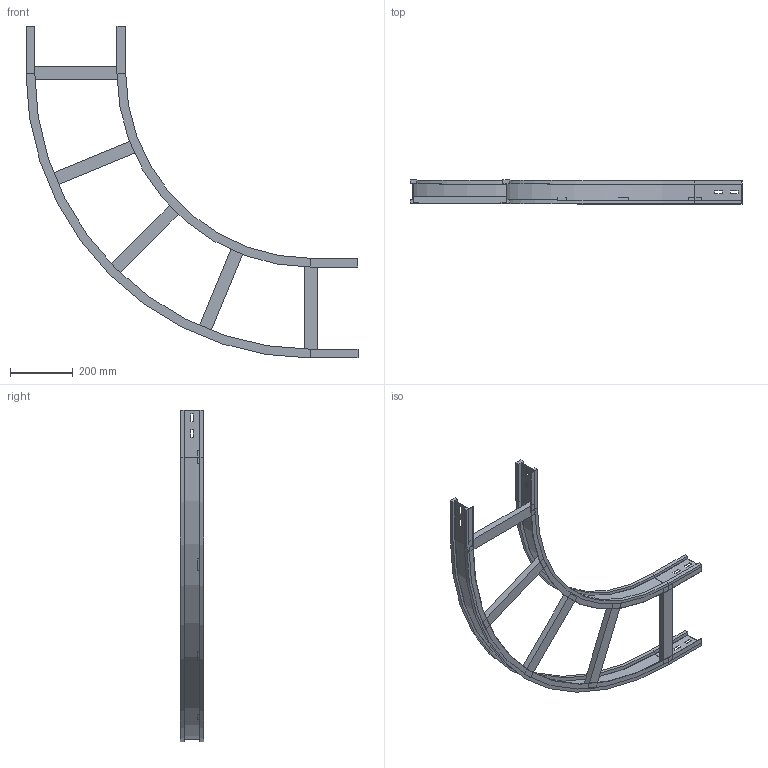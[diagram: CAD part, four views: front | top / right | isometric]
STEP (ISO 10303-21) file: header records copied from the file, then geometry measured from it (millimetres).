
FILE_DESCRIPTION (( 'STEP AP214' ), '1' );
FILE_NAME ('10S6C300.step', '2025-02-21T16:11:47', ( '' ), ( '' ), 'SwSTEP 2.0', 'SolidWorks 2023', '' );
FILE_SCHEMA (( 'AUTOMOTIVE_DESIGN' ));
Length unit declared in the file: millimetre
Products named in the file (4): LONGH.INTERNO 90°_H75_R600; 10S6C300; TRAVERSINO_300; LONGH.ESTERNO 90°_H75_R600+300
Assembly tree (7 placements, depth 2):
  10S6C300
    LONGH.INTERNO 90°_H75_R600
    LONGH.ESTERNO 90°_H75_R600+300
    TRAVERSINO_300  x5
Bounding box: 1059 x 75 x 1059 mm (x, y, z)
Volume: 2656814.8 mm3; surface area: 917152 mm2
Topology: 7 solids, 7 shells, 138 faces, 324 edges, 200 vertices
Faces by surface type: plane 126, cylinder 12
Entity records: 3405 total; most frequent: CARTESIAN_POINT 568, ORIENTED_EDGE 552, DIRECTION 548, EDGE_CURVE 276, LINE 252, VECTOR 252, VERTEX_POINT 168, AXIS2_PLACEMENT_3D 148
